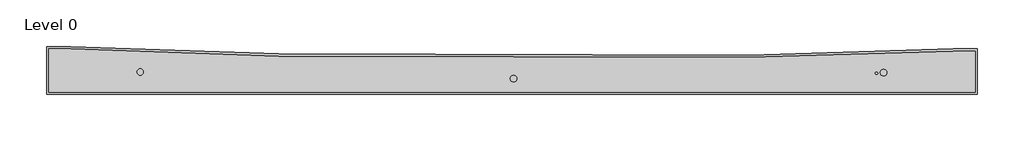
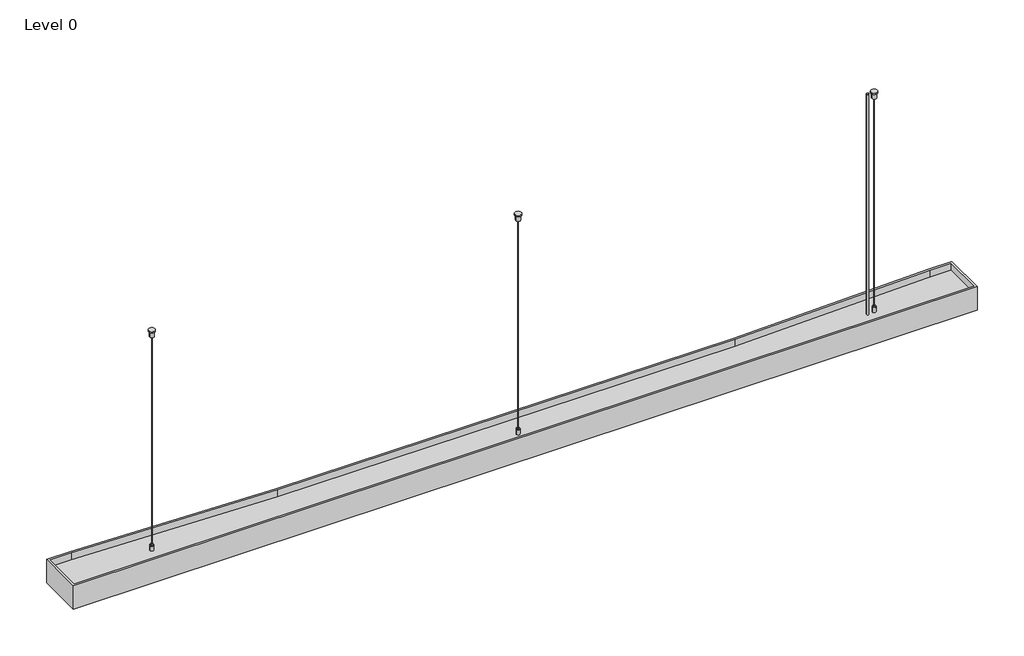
# One storey: 1 light fixture.
"""IFC4 building model written with IfcOpenShell, lengths in millimetres."""

from ifc_helpers import new_model, si_unit, origin, place, context, project, spatial, transform, mapped, element, save
from components import silver_anodized_3000_k_3410_lm_6d61cf27

model = new_model("IFC4")

# Units and contexts
model_context = context("Model", 3, world=origin())
ifc_project = project(units=[si_unit("LENGTHUNIT", "METRE", prefix="MILLI")], contexts=[model_context])

# Site, building, storey
site = spatial("IfcSite", under=ifc_project)
building = spatial("IfcBuilding", under=site)
storey = spatial("IfcBuildingStorey", under=building, Name="Level 0", Elevation=0.0)

# Light fixture
placement = place(None, origin())
silver_anodized_3000_k_3410_lm_shape = silver_anodized_3000_k_3410_lm_6d61cf27(model_context)
element("IfcLightFixture", 1, ObjectType="KLUŚ - MIFOR - MI-WAVE-04 : Silver anodized - 3000 K - 3410 lm", at=placement, inside=storey, context=model_context, shape_type="MappedRepresentation", body=[
    mapped(silver_anodized_3000_k_3410_lm_shape, transform((0.0, 0.0, 555.0), x_axis=(1.0, 0.0, 0.0), y_axis=(0.0, -1.0, 0.0), z_axis=(0.0, 0.0, -1.0))),
])

save(model, "model.ifc")
